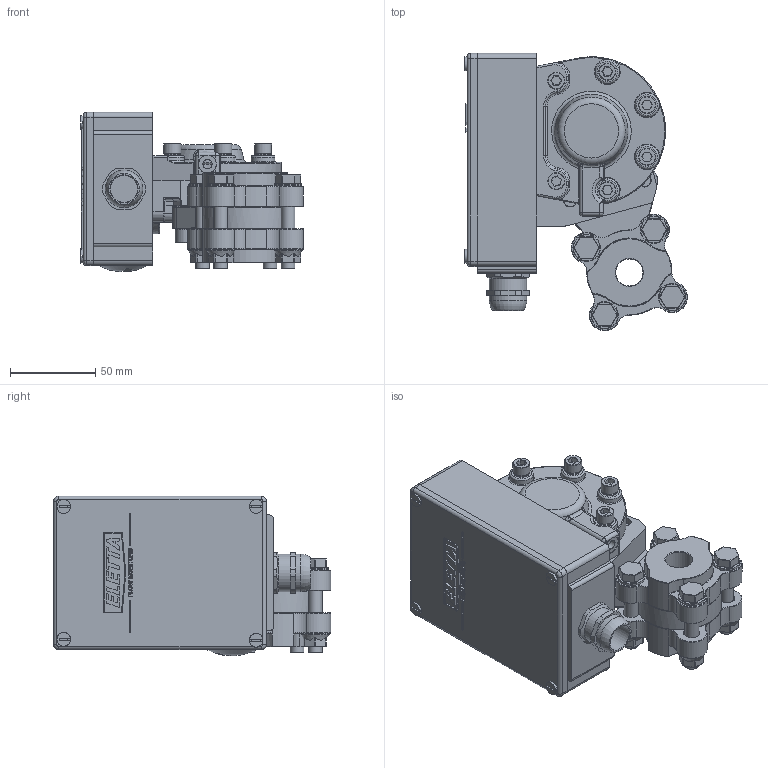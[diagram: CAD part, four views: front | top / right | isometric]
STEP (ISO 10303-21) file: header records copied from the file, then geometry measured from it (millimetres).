
FILE_DESCRIPTION(/* description */ ('Alibre Inc.'),/* implementation_level */ '2;1');
FILE_NAME(/* name */ 'export0',/* time_stamp */ '2012-10-15T10:53:22+02:00',/* author */ (''),/* organization */ (''),/* preprocessor_version */ 'ST-DEVELOPER v14',/* originating_system */ 'Alibre',/* authorisation */ '');
FILE_SCHEMA (('CONFIG_CONTROL_DESIGN'));
Length unit declared in the file: centimetre
Products named in the file (16): ID_1; ID_2; ID_3; ID_4; ID_5; ID_6; ID_7; ID_8; ID_9; ID_10; ID_11; ID_12; ID_13; ID_14
Bounding box: 130.84 x 162.65 x 93.66 mm (x, y, z)
Volume: 406182.2 mm3; surface area: 185054.3 mm2
Topology: 33 solids, 33 shells, 1523 faces, 3558 edges, 2151 vertices
Faces by surface type: plane 746, cylinder 306, cone 202, bspline 163, torus 93, sphere 13
Full cylindrical faces by diameter (mm): 5 x24, 5.5 x1, 6 x12, 6.038 x2, 6.5 x6, 8 x19, 8.4 x4, 9 x8, 9.6 x6, 10 x7, 10.5 x1, 12 x3, 13 x2, 14 x3, 16 x7, 17.966 x1, 19.5 x1, 22 x2, 22.5 x4, 26 x1, 29 x1, 31 x1
Entity records: 41931 total; most frequent: CARTESIAN_POINT 15969, ORIENTED_EDGE 4988, DIRECTION 4289, EDGE_CURVE 2494, AXIS2_PLACEMENT_3D 1781, VERTEX_POINT 1630, EDGE_LOOP 1416, FACE_BOUND 1416
